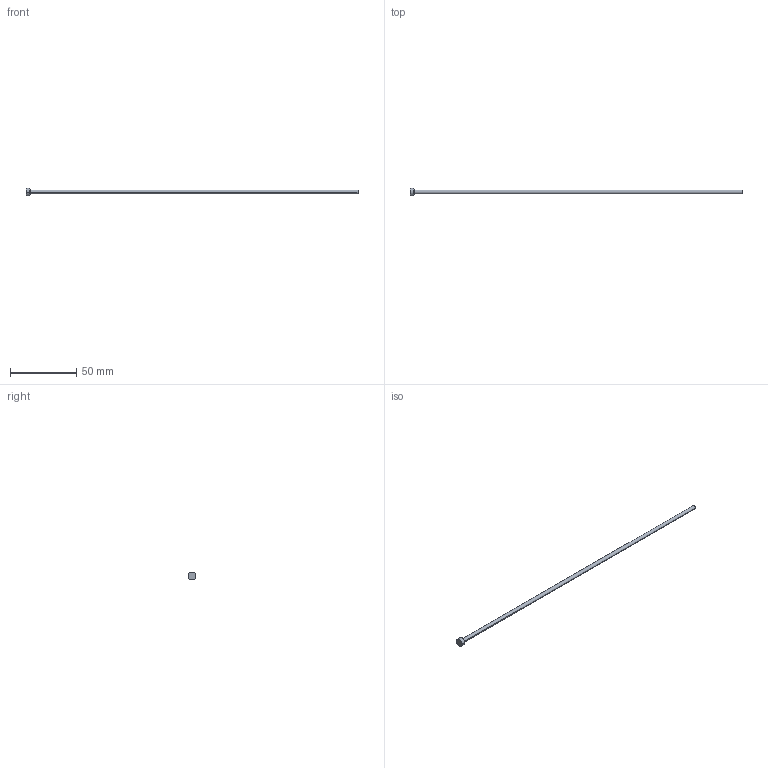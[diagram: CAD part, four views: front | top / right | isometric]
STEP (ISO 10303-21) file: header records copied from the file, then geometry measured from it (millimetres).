
FILE_DESCRIPTION (( 'STEP AP214' ), '1' );
FILE_NAME ('A-3x250.STEP', '2020-05-28T17:37:53', ( 'August' ), ( '' ), 'SwSTEP 2.0', 'SolidWorks 2018', '' );
FILE_SCHEMA (( 'AUTOMOTIVE_DESIGN' ));
Length unit declared in the file: millimetre
Products named in the file (1): A-3x250
Bounding box: 250 x 6 x 6 mm (x, y, z)
Volume: 1831 mm3; surface area: 2439.8 mm2
Topology: 1 solids, 1 shells, 9 faces, 16 edges, 10 vertices
Faces by surface type: cylinder 4, plane 3, torus 2
Entity records: 260 total; most frequent: DIRECTION 48, CARTESIAN_POINT 36, ORIENTED_EDGE 32, AXIS2_PLACEMENT_3D 22, EDGE_CURVE 16, CIRCLE 12, EDGE_LOOP 10, VERTEX_POINT 10
